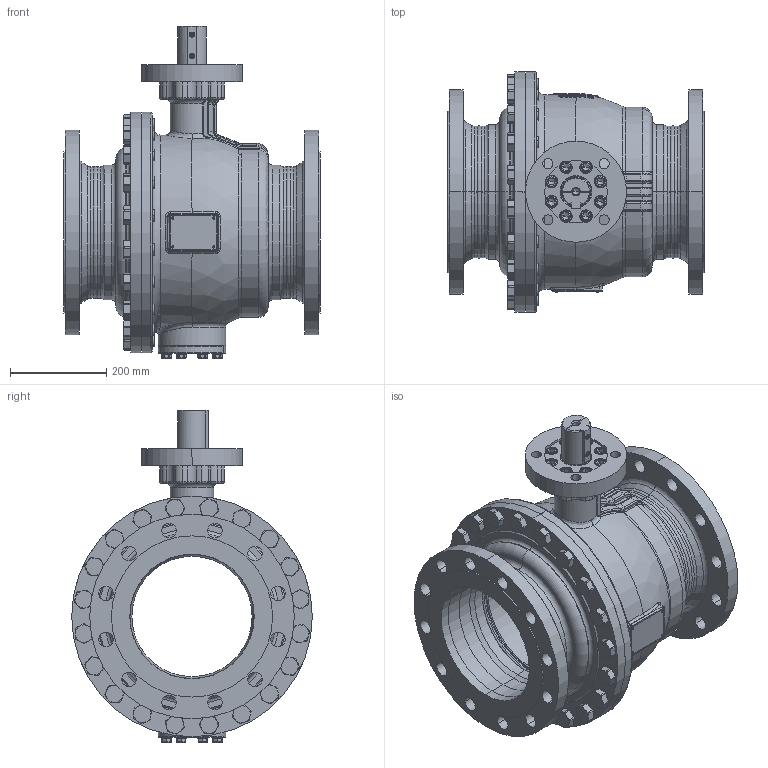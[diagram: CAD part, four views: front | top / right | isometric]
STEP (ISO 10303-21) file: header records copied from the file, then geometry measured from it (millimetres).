
FILE_DESCRIPTION((''),'2;1');
FILE_NAME('KHI-F_250_PN025-F16-P_SW0001','2026-02-05T13:47:15',('fischerkl'),('KLINGER'),'CREO PARAMETRIC BY PTC INC, 2023014','CREO PARAMETRIC BY PTC INC, 2023014','');
FILE_SCHEMA(('CONFIG_CONTROL_DESIGN'));
Products named in the file (1): KHI-F_250_PN025-F16-P_SW0001
Bounding box: 533 x 500 x 689.8 mm (x, y, z)
Volume: 22876750 mm3; surface area: 3404038.4 mm2
Topology: 1 solids, 4 shells, 3277 faces, 8305 edges, 5174 vertices
Faces by surface type: plane 1683, cylinder 768, cone 387, torus 312, bspline 97, sphere 30
Entity records: 134218 total; most frequent: CARTESIAN_POINT 56234, ORIENTED_EDGE 16550, DIRECTION 16034, EDGE_CURVE 8275, AXIS2_PLACEMENT_3D 6057, VERTEX_POINT 5174, VECTOR 3920, LINE 3920
